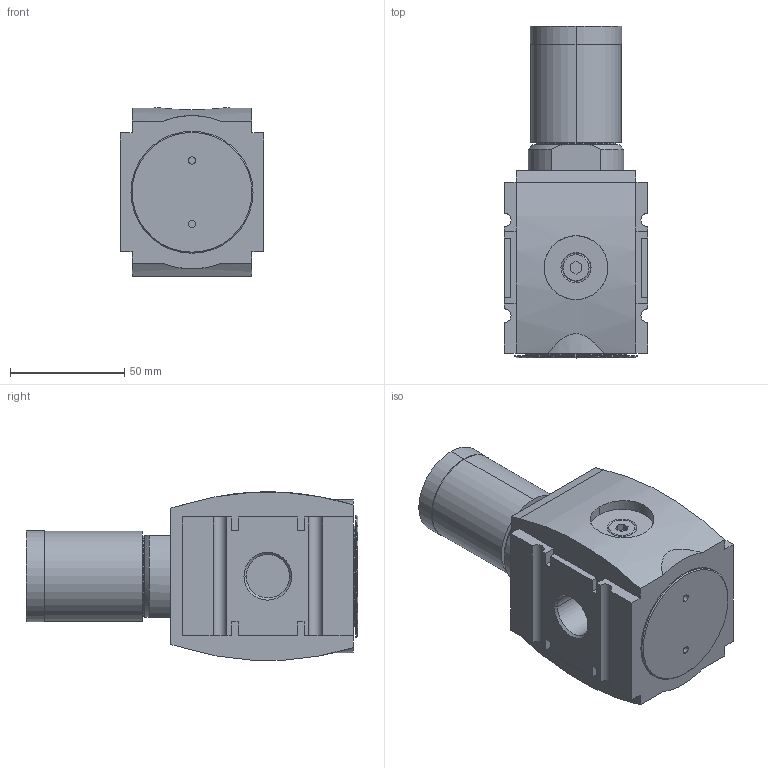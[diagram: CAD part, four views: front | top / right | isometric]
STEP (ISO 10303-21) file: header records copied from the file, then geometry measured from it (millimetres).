
FILE_DESCRIPTION((''),'2;1');
FILE_NAME('R412007152_ASM','2016-06-23T',('prr2cob'),(''),'PRO/ENGINEER BY PARAMETRIC TECHNOLOGY CORPORATION, 2012421','PRO/ENGINEER BY PARAMETRIC TECHNOLOGY CORPORATION, 2012421','');
FILE_SCHEMA(('CONFIG_CONTROL_DESIGN','SHAPE_APPEARANCE_LAYERS_GROUPS'));
Length unit declared in the file: millimetre
Products named in the file (3): R412007152; AS3_PLUG_14; R412007152_ASM
Assembly tree (2 placements, depth 2):
  R412007152_ASM
    R412007152
    AS3_PLUG_14
Bounding box: 63 x 145.5 x 73.77 mm (x, y, z)
Volume: 399374.4 mm3; surface area: 44410.2 mm2
Topology: 2 solids, 2 shells, 132 faces, 326 edges, 212 vertices
Faces by surface type: plane 78, cylinder 34, cone 14, torus 6
Entity records: 4232 total; most frequent: CARTESIAN_POINT 921, DIRECTION 688, ORIENTED_EDGE 652, EDGE_CURVE 326, AXIS2_PLACEMENT_3D 233, VECTOR 222, LINE 222, VERTEX_POINT 212
